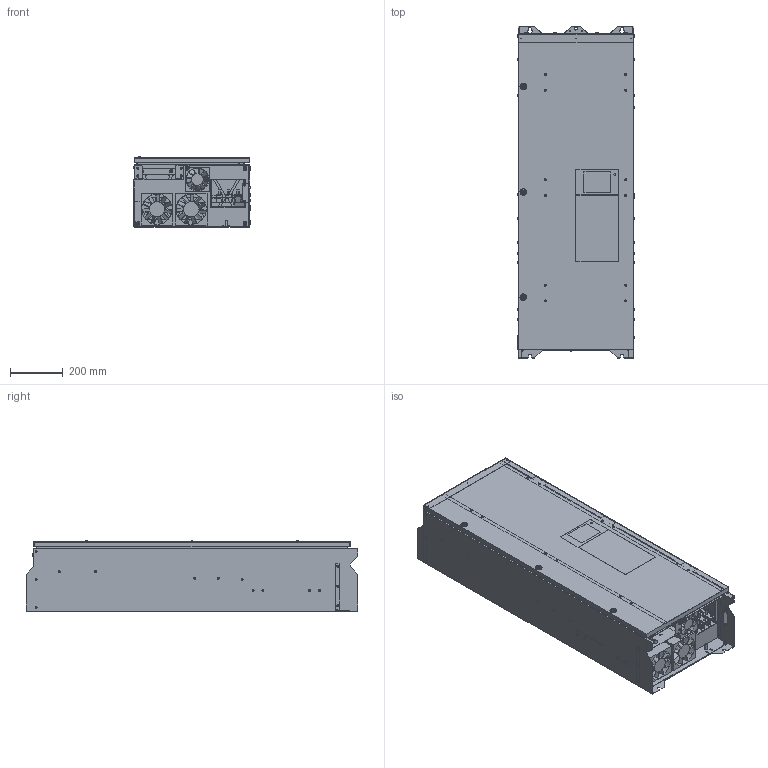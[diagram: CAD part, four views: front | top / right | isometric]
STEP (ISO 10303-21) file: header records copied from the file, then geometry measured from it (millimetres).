
FILE_DESCRIPTION((''),'2;1');
FILE_NAME('1694586226781_ASM','2023-09-13T11:54:10',('SESA654545'),('Schneider-Electric'),'CREO PARAMETRIC BY PTC INC, 2021284','CREO PARAMETRIC BY PTC INC, 2021284','');
FILE_SCHEMA(('AP242_MANAGED_MODEL_BASED_3D_ENGINEERING_MIM_LF { 1 0 10303 442 1 1 4 }'));
Products named in the file (14): EMPTYNODE_1694586227329_ASM; GDE51592-IP00; GDE51592-IP00-BODY-3D_ASM; GDE51592-IP00-COVER; GDE51592-IP00-COVER-3D_ASM; GDE51592-IP00-DOOR; GDE51592-IP00-DOOR-3D_ASM; GDE51592-IP00-BTMCOVER; GDE51592-IP00-BTMCOVER-3D_ASM; GDE51592-IP00-CAGENET1; GDE51592-IP00-CAGENET1-3D_ASM; GDE51592-IP00-CAGENET; GDE51592-IP00-CAGENET-3D_ASM; 1694586226781_ASM
Assembly tree (13 placements, depth 3):
  1694586226781_ASM
    EMPTYNODE_1694586227329_ASM
    GDE51592-IP00-BODY-3D_ASM
      GDE51592-IP00
    GDE51592-IP00-COVER-3D_ASM
      GDE51592-IP00-COVER
    GDE51592-IP00-DOOR-3D_ASM
      GDE51592-IP00-DOOR
    GDE51592-IP00-BTMCOVER-3D_ASM
      GDE51592-IP00-BTMCOVER
    GDE51592-IP00-CAGENET1-3D_ASM
      GDE51592-IP00-CAGENET1
    GDE51592-IP00-CAGENET-3D_ASM
      GDE51592-IP00-CAGENET
Bounding box: 443.3 x 1260 x 266.96 mm (x, y, z)
Volume: 7115163.3 mm3; surface area: 4857271 mm2
Topology: 11 solids, 23 shells, 1783 faces, 4358 edges, 2784 vertices
Faces by surface type: plane 936, cylinder 587, bspline 163, sphere 68, cone 22, torus 6, extrusion 1
Entity records: 77894 total; most frequent: CARTESIAN_POINT 13391, DIRECTION 8718, ORIENTED_EDGE 8716, PRESENTATION_STYLE_ASSIGNMENT 5213, STYLED_ITEM 4377, CURVE_STYLE 4358, EDGE_CURVE 4358, AXIS2_PLACEMENT_3D 2958
